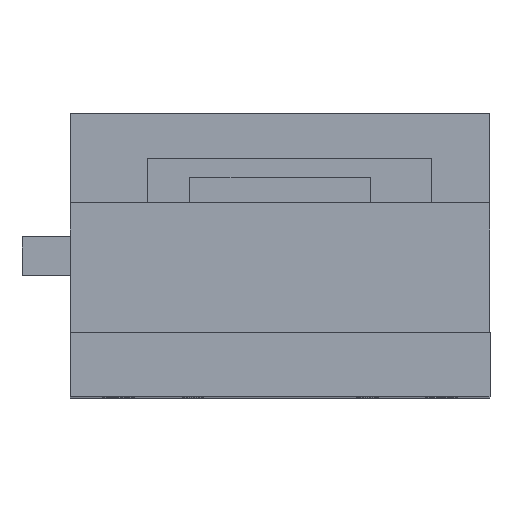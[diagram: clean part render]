
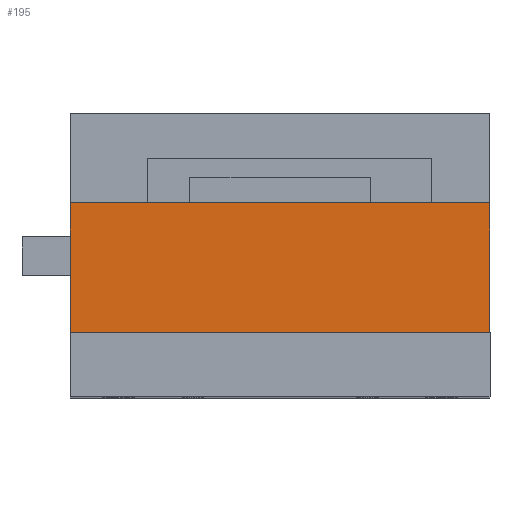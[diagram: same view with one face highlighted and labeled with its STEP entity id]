
A CAD part, top view. The second image highlights one B-rep face of the part: STEP entity #195.
In plain terms, the highlighted planar face has unit normal (0, 0, 1).
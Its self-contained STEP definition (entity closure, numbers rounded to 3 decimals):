
#195 = ADVANCED_FACE ( 'NONE', ( #4078 ), #11009, .F. ) ;
#523 = DIRECTION ( 'NONE',  ( 0., -1., 0. ) ) ;
#546 = DIRECTION ( 'NONE',  ( -1., 0., 0. ) ) ;
#974 = ORIENTED_EDGE ( 'NONE', *, *, #9486, .F. ) ;
#1810 = DIRECTION ( 'NONE',  ( 1., 0., 0. ) ) ;
#2868 = CARTESIAN_POINT ( 'NONE',  ( 121.853, 0., 148.964 ) ) ;
#3203 = VERTEX_POINT ( 'NONE', #13761 ) ;
#3730 = VECTOR ( 'NONE', #12511, 1000. ) ;
#3807 = VERTEX_POINT ( 'NONE', #4757 ) ;
#4027 = CARTESIAN_POINT ( 'NONE',  ( 121.853, 20., 148.964 ) ) ;
#4078 = FACE_OUTER_BOUND ( 'NONE', #8692, .T. ) ;
#4257 = VECTOR ( 'NONE', #1810, 1000. ) ;
#4757 = CARTESIAN_POINT ( 'NONE',  ( 56.853, 0., 148.964 ) ) ;
#4909 = VECTOR ( 'NONE', #6671, 1000. ) ;
#5261 = VERTEX_POINT ( 'NONE', #2868 ) ;
#5431 = CARTESIAN_POINT ( 'NONE',  ( 56.853, 20., 148.964 ) ) ;
#5448 = CARTESIAN_POINT ( 'NONE',  ( 56.853, 0., 148.964 ) ) ;
#5686 = AXIS2_PLACEMENT_3D ( 'NONE', #5431, #7645, #546 ) ;
#5782 = ORIENTED_EDGE ( 'NONE', *, *, #14359, .T. ) ;
#5806 = ORIENTED_EDGE ( 'NONE', *, *, #10382, .T. ) ;
#6671 = DIRECTION ( 'NONE',  ( 1., 0., 0. ) ) ;
#7563 = CARTESIAN_POINT ( 'NONE',  ( 56.853, 20., 148.964 ) ) ;
#7645 = DIRECTION ( 'NONE',  ( 0., 0., -1. ) ) ;
#7805 = LINE ( 'NONE', #5448, #4909 ) ;
#8629 = CARTESIAN_POINT ( 'NONE',  ( 56.853, 20., 148.964 ) ) ;
#8692 = EDGE_LOOP ( 'NONE', ( #5782, #11877, #974, #5806 ) ) ;
#8783 = LINE ( 'NONE', #8629, #10608 ) ;
#8835 = LINE ( 'NONE', #9060, #4257 ) ;
#9060 = CARTESIAN_POINT ( 'NONE',  ( 56.853, 20., 148.964 ) ) ;
#9486 = EDGE_CURVE ( 'NONE', #13762, #3203, #8835, .T. ) ;
#10035 = LINE ( 'NONE', #4027, #3730 ) ;
#10382 = EDGE_CURVE ( 'NONE', #13762, #3807, #8783, .T. ) ;
#10608 = VECTOR ( 'NONE', #523, 1000. ) ;
#11009 = PLANE ( 'NONE',  #5686 ) ;
#11877 = ORIENTED_EDGE ( 'NONE', *, *, #12000, .F. ) ;
#12000 = EDGE_CURVE ( 'NONE', #3203, #5261, #10035, .T. ) ;
#12511 = DIRECTION ( 'NONE',  ( 0., -1., 0. ) ) ;
#13761 = CARTESIAN_POINT ( 'NONE',  ( 121.853, 20., 148.964 ) ) ;
#13762 = VERTEX_POINT ( 'NONE', #7563 ) ;
#14359 = EDGE_CURVE ( 'NONE', #3807, #5261, #7805, .T. ) ;
